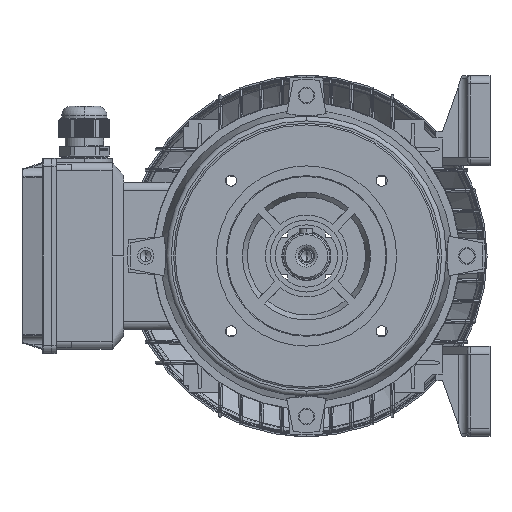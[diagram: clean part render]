
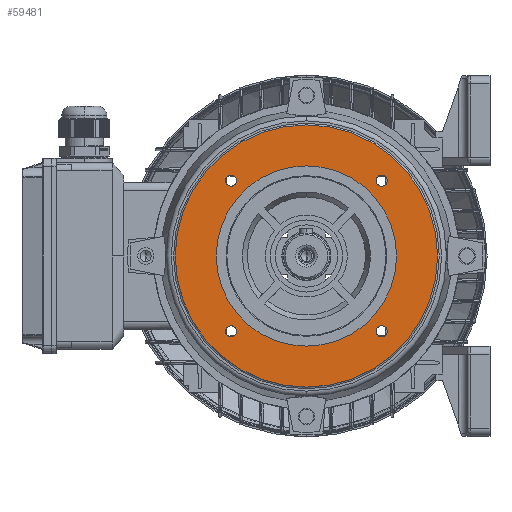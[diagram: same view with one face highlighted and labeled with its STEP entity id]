
A CAD part, left-side view. The second image highlights one B-rep face of the part: STEP entity #59481.
In plain terms, the highlighted planar face has unit normal (-1, 0, 0).
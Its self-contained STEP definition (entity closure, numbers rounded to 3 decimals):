
#1052 = ORIENTED_EDGE ( 'NONE', *, *, #80287, .T. ) ;
#1394 = EDGE_CURVE ( 'NONE', #8341, #92932, #49365, .T. ) ;
#1558 = DIRECTION ( 'NONE',  ( -1., 0., 0. ) ) ;
#2848 = FACE_BOUND ( 'NONE', #76311, .T. ) ;
#3753 = CARTESIAN_POINT ( 'NONE',  ( -16., -45.962, 45.962 ) ) ;
#3985 = AXIS2_PLACEMENT_3D ( 'NONE', #108378, #83902, #71620 ) ;
#5136 = ORIENTED_EDGE ( 'NONE', *, *, #114886, .T. ) ;
#6530 = CIRCLE ( 'NONE', #25323, 55. ) ;
#7147 = EDGE_LOOP ( 'NONE', ( #77658, #109329 ) ) ;
#7165 = CARTESIAN_POINT ( 'NONE',  ( -16., 45.962, 45.962 ) ) ;
#7345 = DIRECTION ( 'NONE',  ( 1., 0., 0. ) ) ;
#7536 = EDGE_CURVE ( 'NONE', #117917, #73278, #116961, .T. ) ;
#8341 = VERTEX_POINT ( 'NONE', #21077 ) ;
#12146 = ORIENTED_EDGE ( 'NONE', *, *, #1394, .T. ) ;
#13394 = AXIS2_PLACEMENT_3D ( 'NONE', #89860, #77598, #65346 ) ;
#15254 = AXIS2_PLACEMENT_3D ( 'NONE', #106715, #82241, #69947 ) ;
#17784 = ORIENTED_EDGE ( 'NONE', *, *, #60630, .F. ) ;
#19578 = CARTESIAN_POINT ( 'NONE',  ( -16., 45.962, 45.962 ) ) ;
#20705 = EDGE_CURVE ( 'NONE', #73278, #117917, #49807, .T. ) ;
#21077 = CARTESIAN_POINT ( 'NONE',  ( -16., 45.962, -49.362 ) ) ;
#24911 = VERTEX_POINT ( 'NONE', #86977 ) ;
#25323 = AXIS2_PLACEMENT_3D ( 'NONE', #26042, #1558, #108852 ) ;
#26042 = CARTESIAN_POINT ( 'NONE',  ( -16., 0., 0. ) ) ;
#27624 = ORIENTED_EDGE ( 'NONE', *, *, #58386, .T. ) ;
#29028 = DIRECTION ( 'NONE',  ( 0., 0., -1. ) ) ;
#29111 = CARTESIAN_POINT ( 'NONE',  ( -16., 0., 55. ) ) ;
#32436 = CARTESIAN_POINT ( 'NONE',  ( -16., 0., 80. ) ) ;
#32534 = ORIENTED_EDGE ( 'NONE', *, *, #95915, .T. ) ;
#34814 = CARTESIAN_POINT ( 'NONE',  ( -16., -45.962, -49.362 ) ) ;
#38916 = CARTESIAN_POINT ( 'NONE',  ( -16., 45.962, -42.562 ) ) ;
#41279 = DIRECTION ( 'NONE',  ( 1., 0., 0. ) ) ;
#42194 = VERTEX_POINT ( 'NONE', #63889 ) ;
#42763 = EDGE_CURVE ( 'NONE', #42194, #83714, #61886, .T. ) ;
#43685 = CIRCLE ( 'NONE', #67756, 3.4 ) ;
#45760 = VERTEX_POINT ( 'NONE', #103513 ) ;
#46646 = DIRECTION ( 'NONE',  ( 0., 0., 1. ) ) ;
#47189 = EDGE_CURVE ( 'NONE', #76885, #48001, #55252, .T. ) ;
#48001 = VERTEX_POINT ( 'NONE', #29111 ) ;
#49144 = FACE_BOUND ( 'NONE', #74443, .T. ) ;
#49365 = CIRCLE ( 'NONE', #84941, 3.4 ) ;
#49807 = CIRCLE ( 'NONE', #116719, 80. ) ;
#50057 = CIRCLE ( 'NONE', #57970, 3.4 ) ;
#51232 = CIRCLE ( 'NONE', #75999, 3.4 ) ;
#52239 = AXIS2_PLACEMENT_3D ( 'NONE', #78084, #65820, #53628 ) ;
#52303 = CIRCLE ( 'NONE', #63975, 3.4 ) ;
#53509 = CARTESIAN_POINT ( 'NONE',  ( -16., 45.962, -45.962 ) ) ;
#53628 = DIRECTION ( 'NONE',  ( 0., 0., -1. ) ) ;
#55252 = CIRCLE ( 'NONE', #94569, 55. ) ;
#55333 = FACE_BOUND ( 'NONE', #89972, .T. ) ;
#57970 = AXIS2_PLACEMENT_3D ( 'NONE', #19578, #7345, #114649 ) ;
#58371 = FACE_BOUND ( 'NONE', #104026, .T. ) ;
#58386 = EDGE_CURVE ( 'NONE', #105315, #24911, #51232, .T. ) ;
#58392 = ORIENTED_EDGE ( 'NONE', *, *, #61587, .T. ) ;
#58835 = DIRECTION ( 'NONE',  ( -1., 0., 0. ) ) ;
#59481 = ADVANCED_FACE ( 'NONE', ( #2848, #49144, #55333, #58371, #64550, #70696 ), #90342, .F. ) ;
#60630 = EDGE_CURVE ( 'NONE', #48001, #76885, #6530, .T. ) ;
#61587 = EDGE_CURVE ( 'NONE', #92932, #8341, #43685, .T. ) ;
#61886 = CIRCLE ( 'NONE', #3985, 3.4 ) ;
#63889 = CARTESIAN_POINT ( 'NONE',  ( -16., -45.962, -42.562 ) ) ;
#63975 = AXIS2_PLACEMENT_3D ( 'NONE', #3753, #98794, #86545 ) ;
#64125 = CIRCLE ( 'NONE', #13394, 3.4 ) ;
#64550 = FACE_OUTER_BOUND ( 'NONE', #7147, .T. ) ;
#65346 = DIRECTION ( 'NONE',  ( 0., 0., -1. ) ) ;
#65594 = EDGE_CURVE ( 'NONE', #83714, #42194, #64125, .T. ) ;
#65820 = DIRECTION ( 'NONE',  ( 1., 0., 0. ) ) ;
#67756 = AXIS2_PLACEMENT_3D ( 'NONE', #53509, #41279, #29028 ) ;
#67789 = DIRECTION ( 'NONE',  ( 0., 0., 1. ) ) ;
#68282 = CIRCLE ( 'NONE', #15254, 3.4 ) ;
#69947 = DIRECTION ( 'NONE',  ( 0., 0., -1. ) ) ;
#70696 = FACE_BOUND ( 'NONE', #108733, .T. ) ;
#71620 = DIRECTION ( 'NONE',  ( 0., 0., -1. ) ) ;
#73278 = VERTEX_POINT ( 'NONE', #32436 ) ;
#74443 = EDGE_LOOP ( 'NONE', ( #1052, #5136 ) ) ;
#75999 = AXIS2_PLACEMENT_3D ( 'NONE', #7165, #114473, #102227 ) ;
#76145 = DIRECTION ( 'NONE',  ( 0., 0., -1. ) ) ;
#76311 = EDGE_LOOP ( 'NONE', ( #32534, #27624 ) ) ;
#76630 = DIRECTION ( 'NONE',  ( 0., 0., 1. ) ) ;
#76885 = VERTEX_POINT ( 'NONE', #89244 ) ;
#77394 = AXIS2_PLACEMENT_3D ( 'NONE', #107821, #58835, #46646 ) ;
#77598 = DIRECTION ( 'NONE',  ( 1., 0., 0. ) ) ;
#77658 = ORIENTED_EDGE ( 'NONE', *, *, #20705, .T. ) ;
#78084 = CARTESIAN_POINT ( 'NONE',  ( -16., 55., 0. ) ) ;
#80083 = DIRECTION ( 'NONE',  ( -1., 0., 0. ) ) ;
#80287 = EDGE_CURVE ( 'NONE', #112781, #45760, #52303, .T. ) ;
#82007 = ORIENTED_EDGE ( 'NONE', *, *, #65594, .T. ) ;
#82241 = DIRECTION ( 'NONE',  ( 1., 0., 0. ) ) ;
#83284 = CARTESIAN_POINT ( 'NONE',  ( -16., 0., -80. ) ) ;
#83714 = VERTEX_POINT ( 'NONE', #34814 ) ;
#83902 = DIRECTION ( 'NONE',  ( 1., 0., 0. ) ) ;
#84941 = AXIS2_PLACEMENT_3D ( 'NONE', #100668, #88397, #76145 ) ;
#86545 = DIRECTION ( 'NONE',  ( 0., 0., -1. ) ) ;
#86977 = CARTESIAN_POINT ( 'NONE',  ( -16., 45.962, 42.562 ) ) ;
#88397 = DIRECTION ( 'NONE',  ( 1., 0., 0. ) ) ;
#88885 = DIRECTION ( 'NONE',  ( -1., 0., 0. ) ) ;
#89244 = CARTESIAN_POINT ( 'NONE',  ( -16., 0., -55. ) ) ;
#89551 = ORIENTED_EDGE ( 'NONE', *, *, #42763, .T. ) ;
#89860 = CARTESIAN_POINT ( 'NONE',  ( -16., -45.962, -45.962 ) ) ;
#89972 = EDGE_LOOP ( 'NONE', ( #82007, #89551 ) ) ;
#90342 = PLANE ( 'NONE',  #52239 ) ;
#91654 = ORIENTED_EDGE ( 'NONE', *, *, #47189, .F. ) ;
#92231 = CARTESIAN_POINT ( 'NONE',  ( -16., -45.962, 42.562 ) ) ;
#92384 = CARTESIAN_POINT ( 'NONE',  ( -16., 45.962, 49.362 ) ) ;
#92932 = VERTEX_POINT ( 'NONE', #38916 ) ;
#94569 = AXIS2_PLACEMENT_3D ( 'NONE', #104571, #80083, #67789 ) ;
#95915 = EDGE_CURVE ( 'NONE', #24911, #105315, #50057, .T. ) ;
#98794 = DIRECTION ( 'NONE',  ( 1., 0., 0. ) ) ;
#100668 = CARTESIAN_POINT ( 'NONE',  ( -16., 45.962, -45.962 ) ) ;
#102227 = DIRECTION ( 'NONE',  ( 0., 0., -1. ) ) ;
#103513 = CARTESIAN_POINT ( 'NONE',  ( -16., -45.962, 49.362 ) ) ;
#104026 = EDGE_LOOP ( 'NONE', ( #12146, #58392 ) ) ;
#104571 = CARTESIAN_POINT ( 'NONE',  ( -16., 0., 0. ) ) ;
#105315 = VERTEX_POINT ( 'NONE', #92384 ) ;
#106715 = CARTESIAN_POINT ( 'NONE',  ( -16., -45.962, 45.962 ) ) ;
#107821 = CARTESIAN_POINT ( 'NONE',  ( -16., 0., 0. ) ) ;
#108378 = CARTESIAN_POINT ( 'NONE',  ( -16., -45.962, -45.962 ) ) ;
#108733 = EDGE_LOOP ( 'NONE', ( #17784, #91654 ) ) ;
#108852 = DIRECTION ( 'NONE',  ( 0., 0., 1. ) ) ;
#109329 = ORIENTED_EDGE ( 'NONE', *, *, #7536, .T. ) ;
#112781 = VERTEX_POINT ( 'NONE', #92231 ) ;
#113375 = CARTESIAN_POINT ( 'NONE',  ( -16., 0., 0. ) ) ;
#114473 = DIRECTION ( 'NONE',  ( 1., 0., 0. ) ) ;
#114649 = DIRECTION ( 'NONE',  ( 0., 0., -1. ) ) ;
#114886 = EDGE_CURVE ( 'NONE', #45760, #112781, #68282, .T. ) ;
#116719 = AXIS2_PLACEMENT_3D ( 'NONE', #113375, #88885, #76630 ) ;
#116961 = CIRCLE ( 'NONE', #77394, 80. ) ;
#117917 = VERTEX_POINT ( 'NONE', #83284 ) ;
